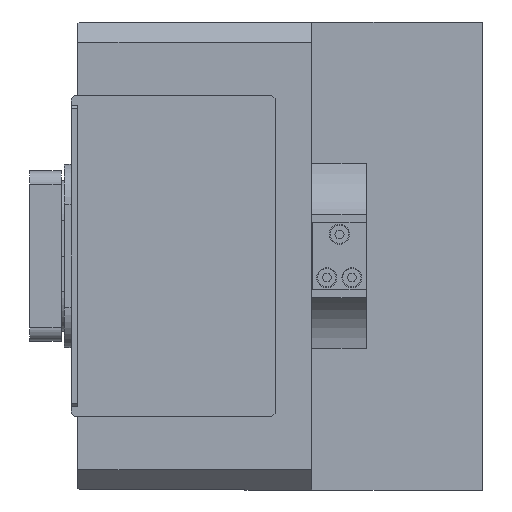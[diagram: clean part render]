
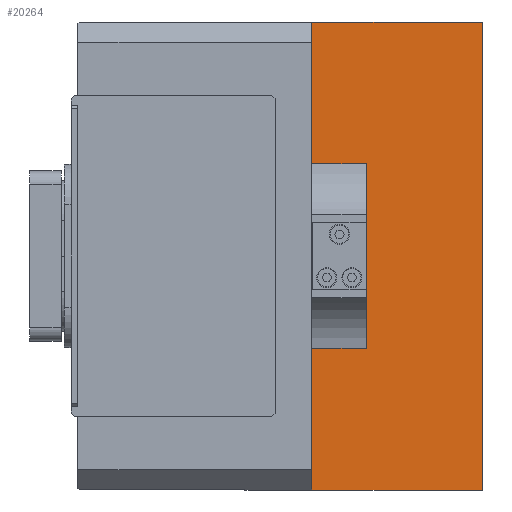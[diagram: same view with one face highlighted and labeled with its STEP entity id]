
A CAD part, left-side view. The second image highlights one B-rep face of the part: STEP entity #20264.
In plain terms, the highlighted planar face has unit normal (-1, 0, 0).
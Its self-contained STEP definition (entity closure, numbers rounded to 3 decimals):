
#103 = VECTOR ( 'NONE', #21436, 1000. ) ;
#368 = ORIENTED_EDGE ( 'NONE', *, *, #18220, .T. ) ;
#1456 = VERTEX_POINT ( 'NONE', #15072 ) ;
#2007 = CARTESIAN_POINT ( 'NONE',  ( -105., 121., 70. ) ) ;
#2451 = CARTESIAN_POINT ( 'NONE',  ( -105., 0., 70. ) ) ;
#2455 = VECTOR ( 'NONE', #4328, 1000. ) ;
#3260 = EDGE_CURVE ( 'NONE', #13795, #23155, #14440, .T. ) ;
#4182 = EDGE_CURVE ( 'NONE', #11376, #10971, #12213, .T. ) ;
#4198 = DIRECTION ( 'NONE',  ( 0., -1., 0. ) ) ;
#4328 = DIRECTION ( 'NONE',  ( 0., 0., 1. ) ) ;
#5054 = CARTESIAN_POINT ( 'NONE',  ( -105., 34.75, -27.525 ) ) ;
#5127 = DIRECTION ( 'NONE',  ( 0., 0., -1. ) ) ;
#6091 = CARTESIAN_POINT ( 'NONE',  ( -105., 51., 70. ) ) ;
#6137 = PLANE ( 'NONE',  #6957 ) ;
#6957 = AXIS2_PLACEMENT_3D ( 'NONE', #2451, #20533, #9907 ) ;
#7205 = ORIENTED_EDGE ( 'NONE', *, *, #4182, .T. ) ;
#7228 = CARTESIAN_POINT ( 'NONE',  ( -105., 0., -70. ) ) ;
#8416 = ORIENTED_EDGE ( 'NONE', *, *, #23282, .T. ) ;
#8853 = VECTOR ( 'NONE', #4198, 1000. ) ;
#9790 = DIRECTION ( 'NONE',  ( 0., 0., 1. ) ) ;
#9887 = LINE ( 'NONE', #21353, #103 ) ;
#9907 = DIRECTION ( 'NONE',  ( 0., 0., 1. ) ) ;
#10259 = VERTEX_POINT ( 'NONE', #14424 ) ;
#10545 = CARTESIAN_POINT ( 'NONE',  ( -105., 0., 27.525 ) ) ;
#10551 = DIRECTION ( 'NONE',  ( 0., -1., 0. ) ) ;
#10971 = VERTEX_POINT ( 'NONE', #16749 ) ;
#11376 = VERTEX_POINT ( 'NONE', #11825 ) ;
#11783 = ORIENTED_EDGE ( 'NONE', *, *, #3260, .T. ) ;
#11825 = CARTESIAN_POINT ( 'NONE',  ( -105., 51., 27.525 ) ) ;
#11838 = CARTESIAN_POINT ( 'NONE',  ( -105., 51., -27.525 ) ) ;
#11892 = VECTOR ( 'NONE', #14921, 1000. ) ;
#12213 = LINE ( 'NONE', #10545, #13230 ) ;
#12370 = LINE ( 'NONE', #6091, #2455 ) ;
#12891 = LINE ( 'NONE', #17822, #17524 ) ;
#13090 = FACE_OUTER_BOUND ( 'NONE', #18711, .T. ) ;
#13230 = VECTOR ( 'NONE', #10551, 1000. ) ;
#13451 = CARTESIAN_POINT ( 'NONE',  ( -105., 0., -70. ) ) ;
#13792 = LINE ( 'NONE', #13451, #8853 ) ;
#13795 = VERTEX_POINT ( 'NONE', #5054 ) ;
#14424 = CARTESIAN_POINT ( 'NONE',  ( -105., 0., 70. ) ) ;
#14440 = LINE ( 'NONE', #21913, #21702 ) ;
#14517 = CARTESIAN_POINT ( 'NONE',  ( -105., 51., -70. ) ) ;
#14878 = ORIENTED_EDGE ( 'NONE', *, *, #19508, .F. ) ;
#14921 = DIRECTION ( 'NONE',  ( 0., 1., 0. ) ) ;
#15072 = CARTESIAN_POINT ( 'NONE',  ( -105., 51., 70. ) ) ;
#15195 = EDGE_CURVE ( 'NONE', #18695, #10259, #9887, .T. ) ;
#15345 = ORIENTED_EDGE ( 'NONE', *, *, #17045, .F. ) ;
#16600 = LINE ( 'NONE', #2007, #11892 ) ;
#16749 = CARTESIAN_POINT ( 'NONE',  ( -105., 34.75, 27.525 ) ) ;
#16949 = VECTOR ( 'NONE', #9790, 1000. ) ;
#17045 = EDGE_CURVE ( 'NONE', #21578, #23155, #21589, .T. ) ;
#17524 = VECTOR ( 'NONE', #5127, 1000. ) ;
#17822 = CARTESIAN_POINT ( 'NONE',  ( -105., 34.75, 70. ) ) ;
#18220 = EDGE_CURVE ( 'NONE', #10259, #1456, #16600, .T. ) ;
#18695 = VERTEX_POINT ( 'NONE', #7228 ) ;
#18711 = EDGE_LOOP ( 'NONE', ( #7205, #8416, #11783, #15345, #19255, #22472, #368, #14878 ) ) ;
#19255 = ORIENTED_EDGE ( 'NONE', *, *, #22269, .T. ) ;
#19508 = EDGE_CURVE ( 'NONE', #11376, #1456, #12370, .T. ) ;
#20264 = ADVANCED_FACE ( 'NONE', ( #13090 ), #6137, .T. ) ;
#20533 = DIRECTION ( 'NONE',  ( -1., 0., 0. ) ) ;
#21353 = CARTESIAN_POINT ( 'NONE',  ( -105., 0., 70. ) ) ;
#21436 = DIRECTION ( 'NONE',  ( 0., 0., 1. ) ) ;
#21578 = VERTEX_POINT ( 'NONE', #14517 ) ;
#21589 = LINE ( 'NONE', #22237, #16949 ) ;
#21702 = VECTOR ( 'NONE', #21797, 1000. ) ;
#21797 = DIRECTION ( 'NONE',  ( 0., 1., 0. ) ) ;
#21913 = CARTESIAN_POINT ( 'NONE',  ( -105., 0., -27.525 ) ) ;
#22237 = CARTESIAN_POINT ( 'NONE',  ( -105., 51., 70. ) ) ;
#22269 = EDGE_CURVE ( 'NONE', #21578, #18695, #13792, .T. ) ;
#22472 = ORIENTED_EDGE ( 'NONE', *, *, #15195, .T. ) ;
#23155 = VERTEX_POINT ( 'NONE', #11838 ) ;
#23282 = EDGE_CURVE ( 'NONE', #10971, #13795, #12891, .T. ) ;
